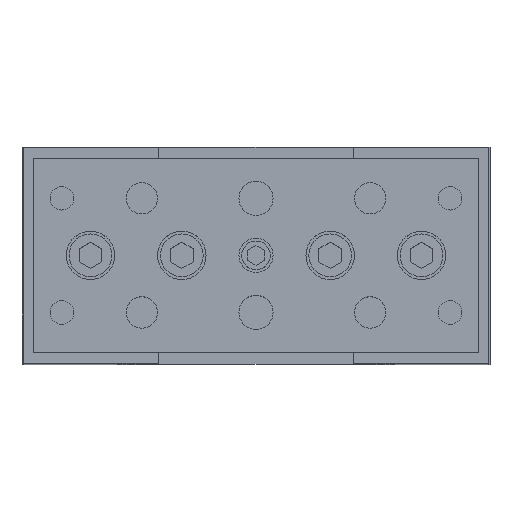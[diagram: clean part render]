
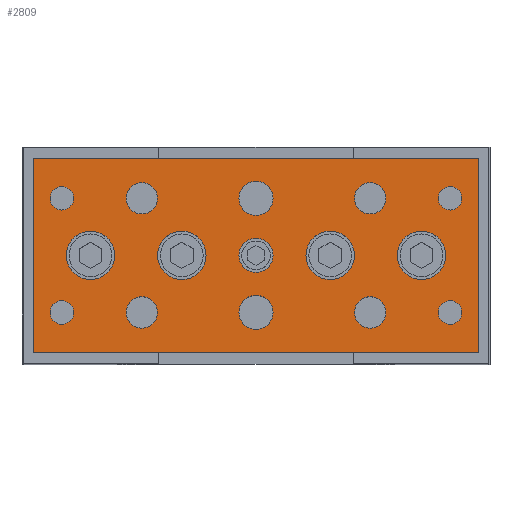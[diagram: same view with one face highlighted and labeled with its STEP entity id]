
A CAD part, top view. The second image highlights one B-rep face of the part: STEP entity #2809.
In plain terms, the highlighted planar face has unit normal (0, 0, 1).
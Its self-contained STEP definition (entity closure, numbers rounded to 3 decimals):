
#770=CARTESIAN_POINT('',(22.75,-10.0,276.0));
#771=VERTEX_POINT('',#770);
#772=CARTESIAN_POINT('',(20.0,-10.0,276.0));
#773=DIRECTION('',(0.0,0.0,-1.0));
#774=DIRECTION('',(-1.0,0.0,0.0));
#775=AXIS2_PLACEMENT_3D('',#772,#773,#774);
#776=CIRCLE('',#775,2.75);
#777=EDGE_CURVE('',#771,#771,#776,.T.);
#880=CARTESIAN_POINT('',(-17.25,-10.0,276.0));
#881=VERTEX_POINT('',#880);
#882=CARTESIAN_POINT('',(-20.0,-10.0,276.0));
#883=DIRECTION('',(0.0,0.0,-1.0));
#884=DIRECTION('',(-1.0,0.0,0.0));
#885=AXIS2_PLACEMENT_3D('',#882,#883,#884);
#886=CIRCLE('',#885,2.75);
#887=EDGE_CURVE('',#881,#881,#886,.T.);
#990=CARTESIAN_POINT('',(22.75,10.0,276.0));
#991=VERTEX_POINT('',#990);
#992=CARTESIAN_POINT('',(20.0,10.0,276.0));
#993=DIRECTION('',(0.0,0.0,-1.0));
#994=DIRECTION('',(-1.0,0.0,0.0));
#995=AXIS2_PLACEMENT_3D('',#992,#993,#994);
#996=CIRCLE('',#995,2.75);
#997=EDGE_CURVE('',#991,#991,#996,.T.);
#1100=CARTESIAN_POINT('',(-17.25,10.0,276.0));
#1101=VERTEX_POINT('',#1100);
#1102=CARTESIAN_POINT('',(-20.0,10.0,276.0));
#1103=DIRECTION('',(0.0,0.0,-1.0));
#1104=DIRECTION('',(-1.0,0.0,0.0));
#1105=AXIS2_PLACEMENT_3D('',#1102,#1103,#1104);
#1106=CIRCLE('',#1105,2.75);
#1107=EDGE_CURVE('',#1101,#1101,#1106,.T.);
#1131=CARTESIAN_POINT('',(3.,-10.0,276.0));
#1132=VERTEX_POINT('',#1131);
#1133=CARTESIAN_POINT('',(0.0,-10.0,276.0));
#1134=DIRECTION('',(0.0,0.0,-1.0));
#1135=DIRECTION('',(-1.0,0.0,0.0));
#1136=AXIS2_PLACEMENT_3D('',#1133,#1134,#1135);
#1137=CIRCLE('',#1136,3.);
#1138=EDGE_CURVE('',#1132,#1132,#1137,.T.);
#1168=CARTESIAN_POINT('',(3.,10.0,276.0));
#1169=VERTEX_POINT('',#1168);
#1170=CARTESIAN_POINT('',(0.0,10.0,276.0));
#1171=DIRECTION('',(0.0,0.0,-1.0));
#1172=DIRECTION('',(-1.0,0.0,0.0));
#1173=AXIS2_PLACEMENT_3D('',#1170,#1171,#1172);
#1174=CIRCLE('',#1173,3.);
#1175=EDGE_CURVE('',#1169,#1169,#1174,.T.);
#1226=CARTESIAN_POINT('',(-31.933,10.0,276.0));
#1227=VERTEX_POINT('',#1226);
#1228=CARTESIAN_POINT('',(-34.0,10.0,276.0));
#1229=DIRECTION('',(0.0,0.0,-1.0));
#1230=DIRECTION('',(1.0,0.0,0.0));
#1231=AXIS2_PLACEMENT_3D('',#1228,#1229,#1230);
#1232=CIRCLE('',#1231,2.067);
#1233=EDGE_CURVE('',#1227,#1227,#1232,.T.);
#1275=CARTESIAN_POINT('',(36.067,10.0,276.0));
#1276=VERTEX_POINT('',#1275);
#1277=CARTESIAN_POINT('',(34.,10.0,276.0));
#1278=DIRECTION('',(0.0,0.0,-1.0));
#1279=DIRECTION('',(1.0,0.0,0.0));
#1280=AXIS2_PLACEMENT_3D('',#1277,#1278,#1279);
#1281=CIRCLE('',#1280,2.067);
#1282=EDGE_CURVE('',#1276,#1276,#1281,.T.);
#1324=CARTESIAN_POINT('',(-31.933,-10.0,276.0));
#1325=VERTEX_POINT('',#1324);
#1326=CARTESIAN_POINT('',(-34.0,-10.0,276.0));
#1327=DIRECTION('',(0.0,0.0,-1.0));
#1328=DIRECTION('',(1.0,0.0,0.0));
#1329=AXIS2_PLACEMENT_3D('',#1326,#1327,#1328);
#1330=CIRCLE('',#1329,2.067);
#1331=EDGE_CURVE('',#1325,#1325,#1330,.T.);
#1373=CARTESIAN_POINT('',(36.067,-10.0,276.0));
#1374=VERTEX_POINT('',#1373);
#1375=CARTESIAN_POINT('',(34.,-10.0,276.0));
#1376=DIRECTION('',(0.0,0.0,-1.0));
#1377=DIRECTION('',(1.0,0.0,0.0));
#1378=AXIS2_PLACEMENT_3D('',#1375,#1376,#1377);
#1379=CIRCLE('',#1378,2.067);
#1380=EDGE_CURVE('',#1374,#1374,#1379,.T.);
#2029=CARTESIAN_POINT('',(3.,0.,276.0));
#2030=VERTEX_POINT('',#2029);
#2031=CARTESIAN_POINT('',(0.0,0.0,276.0));
#2032=DIRECTION('',(0.0,0.0,-1.0));
#2033=DIRECTION('',(-1.0,0.0,0.0));
#2034=AXIS2_PLACEMENT_3D('',#2031,#2032,#2033);
#2035=CIRCLE('',#2034,3.);
#2036=EDGE_CURVE('',#2030,#2030,#2035,.T.);
#2097=CARTESIAN_POINT('',(17.25,0.,276.0));
#2098=VERTEX_POINT('',#2097);
#2099=CARTESIAN_POINT('',(13.,0.0,276.0));
#2100=DIRECTION('',(0.0,0.0,-1.0));
#2101=DIRECTION('',(-1.0,0.0,0.0));
#2102=AXIS2_PLACEMENT_3D('',#2099,#2100,#2101);
#2103=CIRCLE('',#2102,4.25);
#2104=EDGE_CURVE('',#2098,#2098,#2103,.T.);
#2165=CARTESIAN_POINT('',(-8.75,0.,276.0));
#2166=VERTEX_POINT('',#2165);
#2167=CARTESIAN_POINT('',(-13.,0.0,276.0));
#2168=DIRECTION('',(0.0,0.0,-1.0));
#2169=DIRECTION('',(-1.0,0.0,0.0));
#2170=AXIS2_PLACEMENT_3D('',#2167,#2168,#2169);
#2171=CIRCLE('',#2170,4.25);
#2172=EDGE_CURVE('',#2166,#2166,#2171,.T.);
#2233=CARTESIAN_POINT('',(33.25,0.,276.0));
#2234=VERTEX_POINT('',#2233);
#2235=CARTESIAN_POINT('',(29.,0.0,276.0));
#2236=DIRECTION('',(0.0,0.0,-1.0));
#2237=DIRECTION('',(-1.0,0.0,0.0));
#2238=AXIS2_PLACEMENT_3D('',#2235,#2236,#2237);
#2239=CIRCLE('',#2238,4.25);
#2240=EDGE_CURVE('',#2234,#2234,#2239,.T.);
#2301=CARTESIAN_POINT('',(-24.75,0.,276.0));
#2302=VERTEX_POINT('',#2301);
#2303=CARTESIAN_POINT('',(-29.,0.0,276.0));
#2304=DIRECTION('',(0.0,0.0,-1.0));
#2305=DIRECTION('',(-1.0,0.0,0.0));
#2306=AXIS2_PLACEMENT_3D('',#2303,#2304,#2305);
#2307=CIRCLE('',#2306,4.25);
#2308=EDGE_CURVE('',#2302,#2302,#2307,.T.);
#2725=CARTESIAN_POINT('',(39.0,0.0,276.0));
#2726=DIRECTION('',(0.0,0.0,1.0));
#2727=DIRECTION('',(1.0,0.0,0.0));
#2728=AXIS2_PLACEMENT_3D('',#2725,#2726,#2727);
#2729=PLANE('',#2728);
#2730=CARTESIAN_POINT('',(39.0,17.0,276.0));
#2731=VERTEX_POINT('',#2730);
#2732=CARTESIAN_POINT('',(-39.0,17.0,276.0));
#2733=VERTEX_POINT('',#2732);
#2734=CARTESIAN_POINT('',(39.0,17.0,276.0));
#2735=DIRECTION('',(-1.0,0.0,0.0));
#2736=VECTOR('',#2735,78.0);
#2737=LINE('',#2734,#2736);
#2738=EDGE_CURVE('',#2731,#2733,#2737,.T.);
#2739=ORIENTED_EDGE('',*,*,#2738,.T.);
#2740=CARTESIAN_POINT('',(-39.0,-17.0,276.0));
#2741=VERTEX_POINT('',#2740);
#2742=CARTESIAN_POINT('',(-39.0,17.0,276.0));
#2743=DIRECTION('',(0.0,-1.0,0.0));
#2744=VECTOR('',#2743,34.0);
#2745=LINE('',#2742,#2744);
#2746=EDGE_CURVE('',#2733,#2741,#2745,.T.);
#2747=ORIENTED_EDGE('',*,*,#2746,.T.);
#2748=CARTESIAN_POINT('',(39.0,-17.0,276.0));
#2749=VERTEX_POINT('',#2748);
#2750=CARTESIAN_POINT('',(-39.0,-17.0,276.0));
#2751=DIRECTION('',(1.0,0.0,0.0));
#2752=VECTOR('',#2751,78.0);
#2753=LINE('',#2750,#2752);
#2754=EDGE_CURVE('',#2741,#2749,#2753,.T.);
#2755=ORIENTED_EDGE('',*,*,#2754,.T.);
#2756=CARTESIAN_POINT('',(39.0,-17.0,276.0));
#2757=DIRECTION('',(0.0,1.0,0.0));
#2758=VECTOR('',#2757,34.0);
#2759=LINE('',#2756,#2758);
#2760=EDGE_CURVE('',#2749,#2731,#2759,.T.);
#2761=ORIENTED_EDGE('',*,*,#2760,.T.);
#2762=EDGE_LOOP('',(#2739,#2747,#2755,#2761));
#2763=FACE_OUTER_BOUND('',#2762,.T.);
#2764=ORIENTED_EDGE('',*,*,#777,.T.);
#2765=EDGE_LOOP('',(#2764));
#2766=FACE_BOUND('',#2765,.T.);
#2767=ORIENTED_EDGE('',*,*,#887,.T.);
#2768=EDGE_LOOP('',(#2767));
#2769=FACE_BOUND('',#2768,.T.);
#2770=ORIENTED_EDGE('',*,*,#997,.T.);
#2771=EDGE_LOOP('',(#2770));
#2772=FACE_BOUND('',#2771,.T.);
#2773=ORIENTED_EDGE('',*,*,#1107,.T.);
#2774=EDGE_LOOP('',(#2773));
#2775=FACE_BOUND('',#2774,.T.);
#2776=ORIENTED_EDGE('',*,*,#1138,.T.);
#2777=EDGE_LOOP('',(#2776));
#2778=FACE_BOUND('',#2777,.T.);
#2779=ORIENTED_EDGE('',*,*,#1175,.T.);
#2780=EDGE_LOOP('',(#2779));
#2781=FACE_BOUND('',#2780,.T.);
#2782=ORIENTED_EDGE('',*,*,#1233,.T.);
#2783=EDGE_LOOP('',(#2782));
#2784=FACE_BOUND('',#2783,.T.);
#2785=ORIENTED_EDGE('',*,*,#1282,.T.);
#2786=EDGE_LOOP('',(#2785));
#2787=FACE_BOUND('',#2786,.T.);
#2788=ORIENTED_EDGE('',*,*,#1331,.T.);
#2789=EDGE_LOOP('',(#2788));
#2790=FACE_BOUND('',#2789,.T.);
#2791=ORIENTED_EDGE('',*,*,#1380,.T.);
#2792=EDGE_LOOP('',(#2791));
#2793=FACE_BOUND('',#2792,.T.);
#2794=ORIENTED_EDGE('',*,*,#2308,.T.);
#2795=EDGE_LOOP('',(#2794));
#2796=FACE_BOUND('',#2795,.T.);
#2797=ORIENTED_EDGE('',*,*,#2240,.T.);
#2798=EDGE_LOOP('',(#2797));
#2799=FACE_BOUND('',#2798,.T.);
#2800=ORIENTED_EDGE('',*,*,#2172,.T.);
#2801=EDGE_LOOP('',(#2800));
#2802=FACE_BOUND('',#2801,.T.);
#2803=ORIENTED_EDGE('',*,*,#2104,.T.);
#2804=EDGE_LOOP('',(#2803));
#2805=FACE_BOUND('',#2804,.T.);
#2806=ORIENTED_EDGE('',*,*,#2036,.T.);
#2807=EDGE_LOOP('',(#2806));
#2808=FACE_BOUND('',#2807,.T.);
#2809=ADVANCED_FACE('',(#2763,#2766,#2769,#2772,#2775,#2778,#2781,#2784,#2787,#2790,#2793,#2796,#2799,#2802,#2805,#2808),#2729,.T.);
